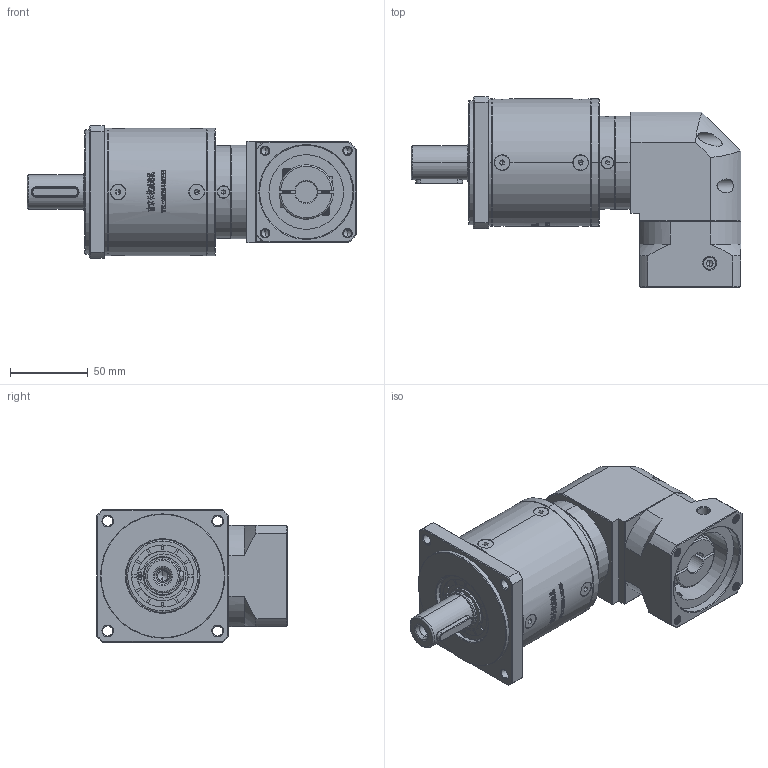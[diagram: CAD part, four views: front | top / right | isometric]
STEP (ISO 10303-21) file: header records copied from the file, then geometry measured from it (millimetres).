
FILE_DESCRIPTION (( 'STEP AP214' ), '1' );
FILE_NAME ('ZFR80-D22-L3-14-60-75-M6.step', '2022-05-08T14:56:45', ( '' ), ( 'Microsoft' ), 'SwSTEP 2.0', 'SolidWorks 2016', '' );
FILE_SCHEMA (( 'AUTOMOTIVE_DESIGN' ));
Length unit declared in the file: millimetre
Products named in the file (1): ZFR80-D22-L3-14-60-75-M6
Bounding box: 212 x 122.7 x 85 mm (x, y, z)
Volume: 904481.3 mm3; surface area: 109615.9 mm2
Topology: 17 solids, 18 shells, 3077 faces, 8215 edges, 5295 vertices
Faces by surface type: plane 1601, bspline 608, cylinder 468, cone 380, torus 20
Entity records: 165820 total; most frequent: CARTESIAN_POINT 60541, ORIENTED_EDGE 16338, DIRECTION 12461, EDGE_CURVE 8169, VERTEX_POINT 5295, LINE 4987, VECTOR 4987, AXIS2_PLACEMENT_3D 3737
